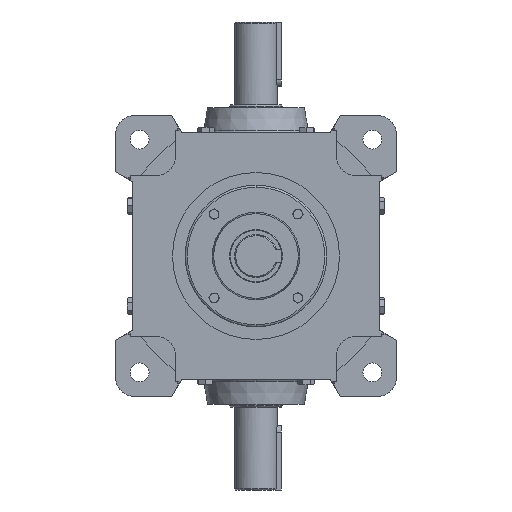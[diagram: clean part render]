
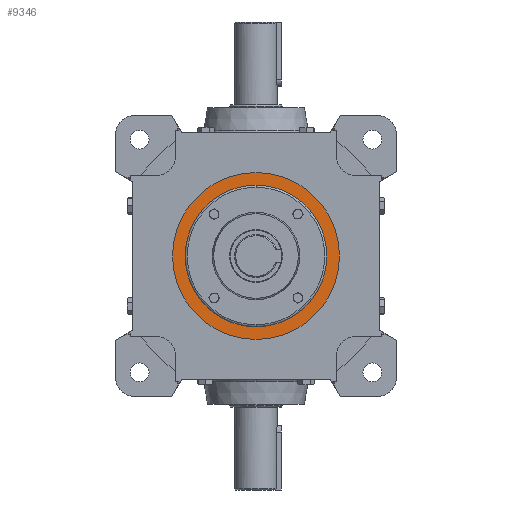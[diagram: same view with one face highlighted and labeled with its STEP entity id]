
A CAD part, front view. The second image highlights one B-rep face of the part: STEP entity #9346.
In plain terms, the highlighted planar face has unit normal (0, -1, 0).
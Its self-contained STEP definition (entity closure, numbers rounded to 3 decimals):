
#621 = PLANE ( 'NONE',  #8979 ) ;
#1151 = EDGE_CURVE ( 'NONE', #2352, #5146, #8315, .T. ) ;
#1589 = CIRCLE ( 'NONE', #7696, 62.452 ) ;
#2352 = VERTEX_POINT ( 'NONE', #7139 ) ;
#3755 = CARTESIAN_POINT ( 'NONE',  ( 0., -86., 0. ) ) ;
#4266 = EDGE_LOOP ( 'NONE', ( #11573, #5354 ) ) ;
#4342 = CARTESIAN_POINT ( 'NONE',  ( 0., -86., 62.452 ) ) ;
#5146 = VERTEX_POINT ( 'NONE', #4342 ) ;
#5354 = ORIENTED_EDGE ( 'NONE', *, *, #12032, .T. ) ;
#5791 = DIRECTION ( 'NONE',  ( 0., -1., 0. ) ) ;
#6258 = FACE_OUTER_BOUND ( 'NONE', #4266, .T. ) ;
#7139 = CARTESIAN_POINT ( 'NONE',  ( 0., -86., -62.452 ) ) ;
#7696 = AXIS2_PLACEMENT_3D ( 'NONE', #9903, #18081, #19635 ) ;
#8315 = CIRCLE ( 'NONE', #17381, 62.452 ) ;
#8979 = AXIS2_PLACEMENT_3D ( 'NONE', #3755, #18413, #18273 ) ;
#9346 = ADVANCED_FACE ( 'NONE', ( #6258 ), #621, .T. ) ;
#9903 = CARTESIAN_POINT ( 'NONE',  ( 0., -86., 0. ) ) ;
#11573 = ORIENTED_EDGE ( 'NONE', *, *, #1151, .T. ) ;
#12032 = EDGE_CURVE ( 'NONE', #5146, #2352, #1589, .T. ) ;
#15441 = CARTESIAN_POINT ( 'NONE',  ( 0., -86., 0. ) ) ;
#17131 = DIRECTION ( 'NONE',  ( 0., 0., -1. ) ) ;
#17381 = AXIS2_PLACEMENT_3D ( 'NONE', #15441, #5791, #17131 ) ;
#18081 = DIRECTION ( 'NONE',  ( 0., -1., 0. ) ) ;
#18273 = DIRECTION ( 'NONE',  ( 0., 0., -1. ) ) ;
#18413 = DIRECTION ( 'NONE',  ( 0., -1., 0. ) ) ;
#19635 = DIRECTION ( 'NONE',  ( 0., 0., -1. ) ) ;
